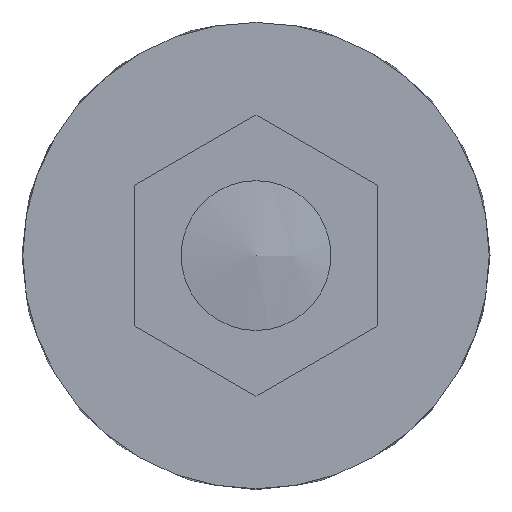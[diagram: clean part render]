
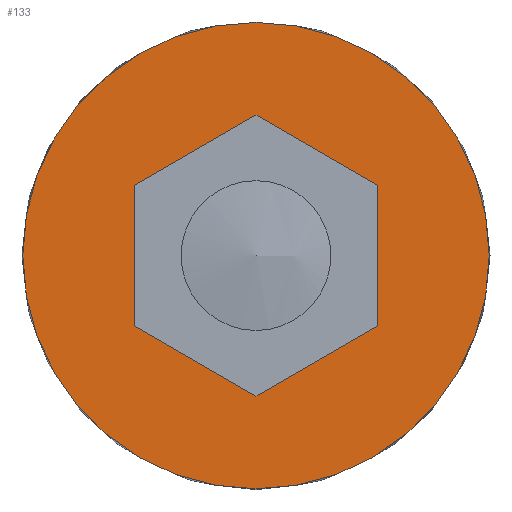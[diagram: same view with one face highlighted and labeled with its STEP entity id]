
A CAD part, front view. The second image highlights one B-rep face of the part: STEP entity #133.
In plain terms, the highlighted planar face has unit normal (0, -1, 0) as drawn and (0, 1, 0) by its records, which use the part's own axes.
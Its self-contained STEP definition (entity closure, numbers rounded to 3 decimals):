
#133 = ADVANCED_FACE( '', ( #160, #161 ), #162, .F. );
#160 = FACE_OUTER_BOUND( '', #217, .T. );
#161 = FACE_BOUND( '', #218, .T. );
#162 = PLANE( '', #219 );
#217 = EDGE_LOOP( '', ( #314 ) );
#218 = EDGE_LOOP( '', ( #315, #316, #317, #318, #319, #320 ) );
#219 = AXIS2_PLACEMENT_3D( '', #321, #322, #323 );
#314 = ORIENTED_EDGE( '', *, *, #466, .F. );
#315 = ORIENTED_EDGE( '', *, *, #467, .T. );
#316 = ORIENTED_EDGE( '', *, *, #468, .T. );
#317 = ORIENTED_EDGE( '', *, *, #469, .T. );
#318 = ORIENTED_EDGE( '', *, *, #470, .T. );
#319 = ORIENTED_EDGE( '', *, *, #471, .T. );
#320 = ORIENTED_EDGE( '', *, *, #472, .T. );
#321 = CARTESIAN_POINT( '', ( 3.387, -2., 0. ) );
#322 = DIRECTION( '', ( 0., -1., 0. ) );
#323 = DIRECTION( '', ( 0., 0., -1. ) );
#466 = EDGE_CURVE( '', #518, #518, #519, .T. );
#467 = EDGE_CURVE( '', #520, #521, #522, .T. );
#468 = EDGE_CURVE( '', #521, #523, #524, .T. );
#469 = EDGE_CURVE( '', #523, #525, #526, .T. );
#470 = EDGE_CURVE( '', #525, #527, #528, .T. );
#471 = EDGE_CURVE( '', #527, #529, #530, .T. );
#472 = EDGE_CURVE( '', #529, #520, #531, .T. );
#518 = VERTEX_POINT( '', #600 );
#519 = CIRCLE( '', #601, 12.451 );
#520 = VERTEX_POINT( '', #602 );
#521 = VERTEX_POINT( '', #603 );
#522 = LINE( '', #604, #605 );
#523 = VERTEX_POINT( '', #606 );
#524 = LINE( '', #607, #608 );
#525 = VERTEX_POINT( '', #609 );
#526 = LINE( '', #610, #611 );
#527 = VERTEX_POINT( '', #612 );
#528 = LINE( '', #613, #614 );
#529 = VERTEX_POINT( '', #615 );
#530 = LINE( '', #616, #617 );
#531 = LINE( '', #618, #619 );
#600 = CARTESIAN_POINT( '', ( 0., -2., -12.451 ) );
#601 = AXIS2_PLACEMENT_3D( '', #701, #702, #703 );
#602 = CARTESIAN_POINT( '', ( 6.5, -2., 3.753 ) );
#603 = CARTESIAN_POINT( '', ( 0., -2., 7.506 ) );
#604 = CARTESIAN_POINT( '', ( 5.79, -2., 4.163 ) );
#605 = VECTOR( '', #704, 1000. );
#606 = CARTESIAN_POINT( '', ( -6.5, -2., 3.753 ) );
#607 = CARTESIAN_POINT( '', ( -0.71, -2., 7.096 ) );
#608 = VECTOR( '', #705, 1000. );
#609 = CARTESIAN_POINT( '', ( -6.5, -2., -3.753 ) );
#610 = CARTESIAN_POINT( '', ( -6.5, -2., 0. ) );
#611 = VECTOR( '', #706, 1000. );
#612 = CARTESIAN_POINT( '', ( 0., -2., -7.506 ) );
#613 = CARTESIAN_POINT( '', ( -0.71, -2., -7.096 ) );
#614 = VECTOR( '', #707, 1000. );
#615 = CARTESIAN_POINT( '', ( 6.5, -2., -3.753 ) );
#616 = CARTESIAN_POINT( '', ( 5.79, -2., -4.163 ) );
#617 = VECTOR( '', #708, 1000. );
#618 = CARTESIAN_POINT( '', ( 6.5, -2., 0. ) );
#619 = VECTOR( '', #709, 1000. );
#701 = CARTESIAN_POINT( '', ( 0., -2., 0. ) );
#702 = DIRECTION( '', ( 0., -1., 0. ) );
#703 = DIRECTION( '', ( 0., 0., -1. ) );
#704 = DIRECTION( '', ( -0.866, 0., 0.5 ) );
#705 = DIRECTION( '', ( -0.866, 0., -0.5 ) );
#706 = DIRECTION( '', ( 0., 0., -1. ) );
#707 = DIRECTION( '', ( 0.866, 0., -0.5 ) );
#708 = DIRECTION( '', ( 0.866, 0., 0.5 ) );
#709 = DIRECTION( '', ( 0., 0., 1. ) );
